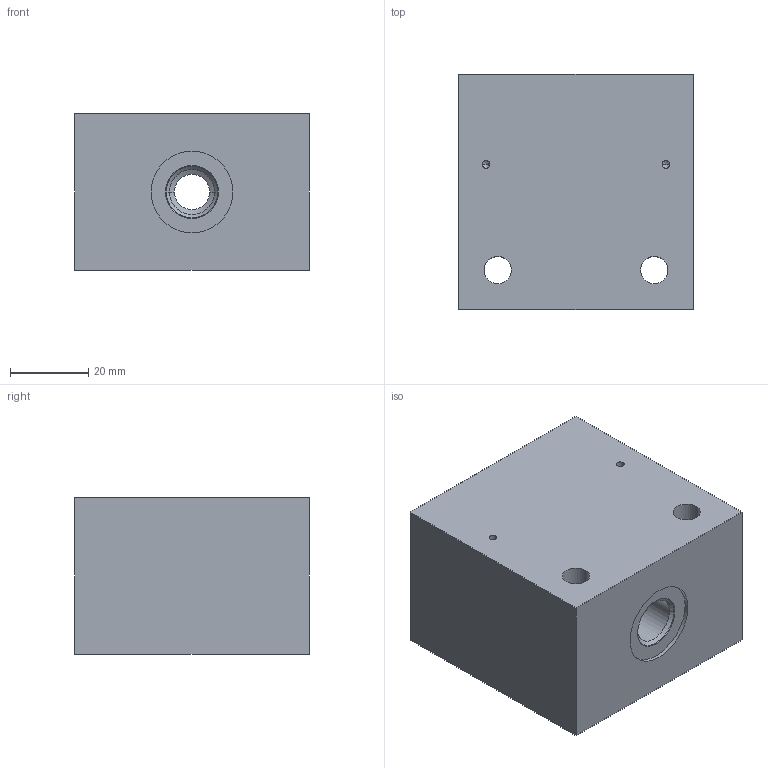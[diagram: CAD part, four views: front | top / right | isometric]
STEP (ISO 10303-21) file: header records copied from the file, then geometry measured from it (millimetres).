
FILE_DESCRIPTION((''),'2;1');
FILE_NAME('28129501','2023-10-11T',('l.soukupova'),(''),'PRO/ENGINEER BY PARAMETRIC TECHNOLOGY CORPORATION, 2015440','PRO/ENGINEER BY PARAMETRIC TECHNOLOGY CORPORATION, 2015440','');
FILE_SCHEMA(('AUTOMOTIVE_DESIGN { 1 0 10303 214 1 1 1 1 }'));
Length unit declared in the file: millimetre
Products named in the file (1): 28129501
Bounding box: 60 x 60 x 40 mm (x, y, z)
Volume: 129173.3 mm3; surface area: 23109.4 mm2
Topology: 1 solids, 4 shells, 64 faces, 222 edges, 186 vertices
Faces by surface type: cylinder 32, cone 20, plane 12
Entity records: 3203 total; most frequent: CARTESIAN_POINT 484, DIRECTION 432, ORIENTED_EDGE 276, PRESENTATION_STYLE_ASSIGNMENT 240, STYLED_ITEM 240, CURVE_STYLE 236, AXIS2_PLACEMENT_3D 148, EDGE_CURVE 144
